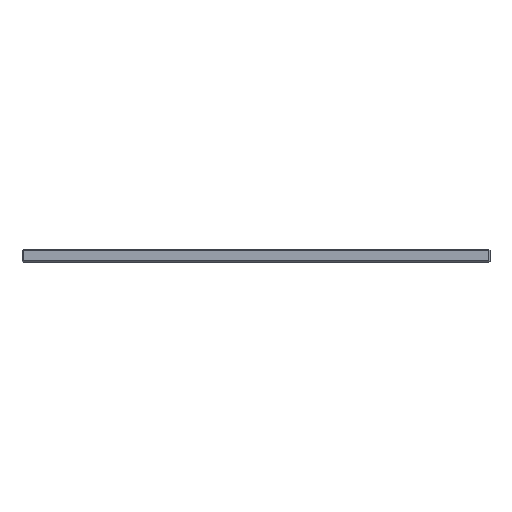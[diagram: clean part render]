
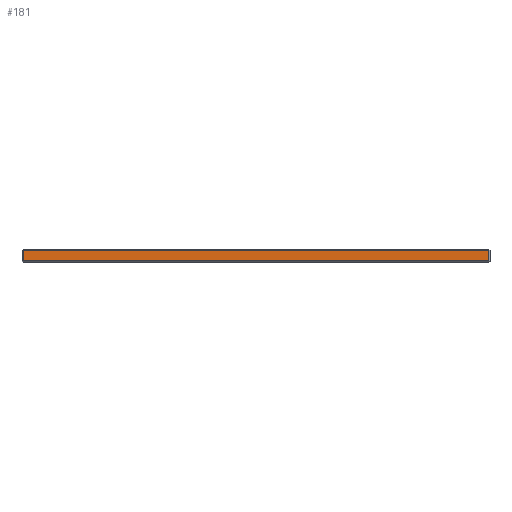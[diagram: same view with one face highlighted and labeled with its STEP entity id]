
A CAD part, top view. The second image highlights one B-rep face of the part: STEP entity #181.
In plain terms, the highlighted planar face has unit normal (0, 0, 1).
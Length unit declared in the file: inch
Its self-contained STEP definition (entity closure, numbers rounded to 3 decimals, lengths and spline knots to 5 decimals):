
#110 = VECTOR ( 'NONE', #1394, 39.37008 ) ;
#172 = EDGE_LOOP ( 'NONE', ( #606, #272, #1307, #1322 ) ) ;
#181 = ADVANCED_FACE ( 'NONE', ( #659 ), #1732, .F. ) ;
#211 = CARTESIAN_POINT ( 'NONE',  ( -8.9375, 0.05, 8.875 ) ) ;
#228 = DIRECTION ( 'NONE',  ( 0., 0., -1. ) ) ;
#254 = DIRECTION ( 'NONE',  ( 0., -1., 0. ) ) ;
#272 = ORIENTED_EDGE ( 'NONE', *, *, #1242, .T. ) ;
#342 = CARTESIAN_POINT ( 'NONE',  ( 8.8875, 0.05, 8.875 ) ) ;
#432 = LINE ( 'NONE', #810, #1343 ) ;
#458 = CARTESIAN_POINT ( 'NONE',  ( -8.8875, 0.05, 8.875 ) ) ;
#538 = EDGE_CURVE ( 'NONE', #588, #614, #888, .T. ) ;
#588 = VERTEX_POINT ( 'NONE', #1147 ) ;
#606 = ORIENTED_EDGE ( 'NONE', *, *, #883, .T. ) ;
#614 = VERTEX_POINT ( 'NONE', #458 ) ;
#656 = CARTESIAN_POINT ( 'NONE',  ( 8.8875, 0.45, 8.875 ) ) ;
#659 = FACE_OUTER_BOUND ( 'NONE', #172, .T. ) ;
#810 = CARTESIAN_POINT ( 'NONE',  ( -8.9375, 0.45, 8.875 ) ) ;
#817 = DIRECTION ( 'NONE',  ( -1., 0., 0. ) ) ;
#839 = CARTESIAN_POINT ( 'NONE',  ( -8.9375, 0.5, 8.875 ) ) ;
#879 = VERTEX_POINT ( 'NONE', #656 ) ;
#883 = EDGE_CURVE ( 'NONE', #614, #1328, #1730, .T. ) ;
#888 = LINE ( 'NONE', #1453, #1371 ) ;
#996 = DIRECTION ( 'NONE',  ( 0., 1., 0. ) ) ;
#1113 = EDGE_CURVE ( 'NONE', #879, #588, #432, .T. ) ;
#1136 = CARTESIAN_POINT ( 'NONE',  ( 8.8875, 0.5, 8.875 ) ) ;
#1147 = CARTESIAN_POINT ( 'NONE',  ( -8.8875, 0.45, 8.875 ) ) ;
#1242 = EDGE_CURVE ( 'NONE', #1328, #879, #1601, .T. ) ;
#1307 = ORIENTED_EDGE ( 'NONE', *, *, #1113, .T. ) ;
#1322 = ORIENTED_EDGE ( 'NONE', *, *, #538, .T. ) ;
#1328 = VERTEX_POINT ( 'NONE', #342 ) ;
#1343 = VECTOR ( 'NONE', #817, 39.37008 ) ;
#1371 = VECTOR ( 'NONE', #254, 39.37008 ) ;
#1394 = DIRECTION ( 'NONE',  ( 1., 0., 0. ) ) ;
#1453 = CARTESIAN_POINT ( 'NONE',  ( -8.8875, 0.5, 8.875 ) ) ;
#1566 = DIRECTION ( 'NONE',  ( -1., 0., 0. ) ) ;
#1601 = LINE ( 'NONE', #1136, #1904 ) ;
#1730 = LINE ( 'NONE', #211, #110 ) ;
#1732 = PLANE ( 'NONE',  #1738 ) ;
#1738 = AXIS2_PLACEMENT_3D ( 'NONE', #839, #228, #1566 ) ;
#1904 = VECTOR ( 'NONE', #996, 39.37008 ) ;
